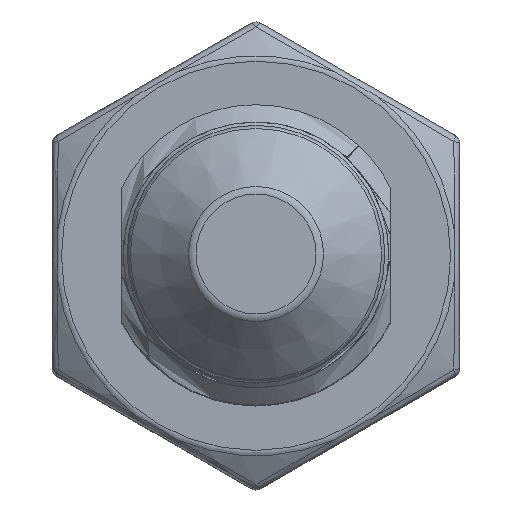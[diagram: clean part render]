
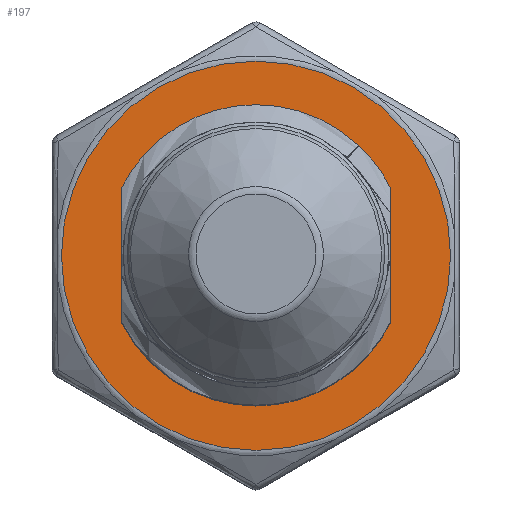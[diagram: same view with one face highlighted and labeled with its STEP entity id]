
A CAD part, top view. The second image highlights one B-rep face of the part: STEP entity #197.
In plain terms, the highlighted planar face has unit normal (0, 0, 1).
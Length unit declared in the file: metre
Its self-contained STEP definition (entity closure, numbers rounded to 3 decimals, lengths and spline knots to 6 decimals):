
#197=ADVANCED_FACE('',(#463,#464),#465,.T.);
#463=FACE_BOUND('',#1430,.T.);
#464=FACE_OUTER_BOUND('',#1431,.T.);
#465=PLANE('',#1432);
#1430=EDGE_LOOP('',(#6690));
#1431=EDGE_LOOP('',(#6691));
#1432=AXIS2_PLACEMENT_3D('',#6692,#6693,#6694);
#6690=ORIENTED_EDGE('',*,*,#7971,.T.);
#6691=ORIENTED_EDGE('',*,*,#8017,.T.);
#6692=CARTESIAN_POINT('',(0.005485,-0.0095,0.006));
#6693=DIRECTION('',(0.0,0.0,1.0));
#6694=DIRECTION('',(1.0,0.0,0.0));
#7971=EDGE_CURVE('',#8480,#8480,#8481,.T.);
#8017=EDGE_CURVE('',#8554,#8554,#8555,.T.);
#8480=VERTEX_POINT('',#9536);
#8481=CIRCLE('',#9537,0.00625);
#8554=VERTEX_POINT('',#9697);
#8555=CIRCLE('',#9698,0.009066);
#9536=CARTESIAN_POINT('',(0.,0.00625,0.006));
#9537=AXIS2_PLACEMENT_3D('',#15192,#15193,#15194);
#9697=CARTESIAN_POINT('',(0.009066,0.,0.006));
#9698=AXIS2_PLACEMENT_3D('',#15298,#15299,#15300);
#15192=CARTESIAN_POINT('',(0.,0.,0.006));
#15193=DIRECTION('',(0.0,0.,-1.0));
#15194=DIRECTION('',(0.0,1.0,0.));
#15298=CARTESIAN_POINT('',(0.,0.,0.006));
#15299=DIRECTION('',(0.0,0.0,1.0));
#15300=DIRECTION('',(1.0,0.0,0.0));
